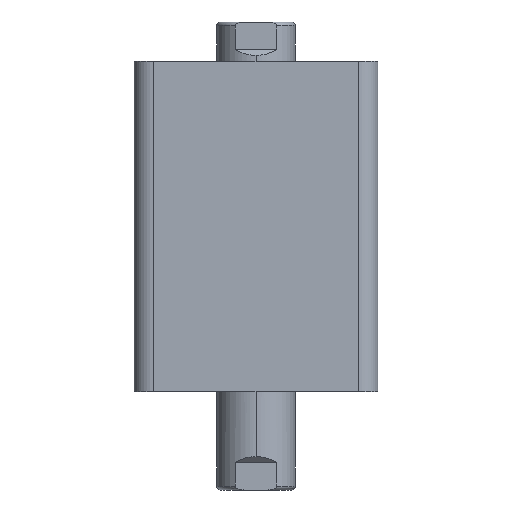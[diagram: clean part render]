
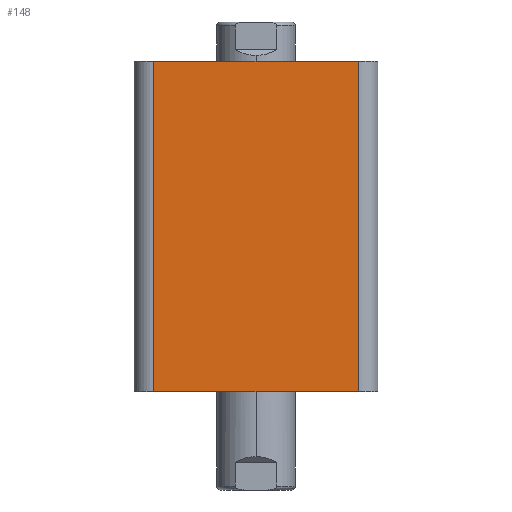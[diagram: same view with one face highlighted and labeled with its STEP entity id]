
A CAD part, left-side view. The second image highlights one B-rep face of the part: STEP entity #148.
In plain terms, the highlighted planar face has unit normal (-1, 0, 0).
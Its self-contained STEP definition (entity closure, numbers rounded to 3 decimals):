
#82 = DIRECTION ( 'NONE',  ( 0., 1., 0. ) ) ;
#84 = DIRECTION ( 'NONE',  ( 1., 0., 0. ) ) ;
#85 = PLANE ( 'NONE',  #2792 ) ;
#105 = CARTESIAN_POINT ( 'NONE',  ( -31., 31., 84. ) ) ;
#148 = ADVANCED_FACE ( 'NONE', ( #2646 ), #85, .F. ) ;
#226 = CARTESIAN_POINT ( 'NONE',  ( -31., -26., 0. ) ) ;
#232 = CARTESIAN_POINT ( 'NONE',  ( -31., 26., 84. ) ) ;
#262 = CARTESIAN_POINT ( 'NONE',  ( -31., 26., 0. ) ) ;
#285 = CARTESIAN_POINT ( 'NONE',  ( -31., -26., 84. ) ) ;
#396 = LINE ( 'NONE', #1488, #400 ) ;
#400 = VECTOR ( 'NONE', #1489, 1000. ) ;
#401 = LINE ( 'NONE', #1491, #405 ) ;
#402 = LINE ( 'NONE', #1477, #403 ) ;
#403 = VECTOR ( 'NONE', #1490, 1000. ) ;
#404 = LINE ( 'NONE', #1493, #407 ) ;
#405 = VECTOR ( 'NONE', #1492, 1000. ) ;
#407 = VECTOR ( 'NONE', #1494, 1000. ) ;
#1222 = EDGE_LOOP ( 'NONE', ( #3028, #3027, #3026, #3025 ) ) ;
#1477 = CARTESIAN_POINT ( 'NONE',  ( -31., -26., 84. ) ) ;
#1488 = CARTESIAN_POINT ( 'NONE',  ( -31., 31., 0. ) ) ;
#1489 = DIRECTION ( 'NONE',  ( 0., -1., 0. ) ) ;
#1490 = DIRECTION ( 'NONE',  ( 0., 0., 1. ) ) ;
#1491 = CARTESIAN_POINT ( 'NONE',  ( -31., 31., 84. ) ) ;
#1492 = DIRECTION ( 'NONE',  ( 0., -1., 0. ) ) ;
#1493 = CARTESIAN_POINT ( 'NONE',  ( -31., 26., 84. ) ) ;
#1494 = DIRECTION ( 'NONE',  ( 0., 0., -1. ) ) ;
#2373 = EDGE_CURVE ( 'NONE', #2982, #2946, #396, .T. ) ;
#2374 = EDGE_CURVE ( 'NONE', #2946, #3005, #402, .T. ) ;
#2375 = EDGE_CURVE ( 'NONE', #2952, #3005, #401, .T. ) ;
#2376 = EDGE_CURVE ( 'NONE', #2952, #2982, #404, .T. ) ;
#2646 = FACE_OUTER_BOUND ( 'NONE', #1222, .T. ) ;
#2792 = AXIS2_PLACEMENT_3D ( 'NONE', #105, #84, #82 ) ;
#2946 = VERTEX_POINT ( 'NONE', #226 ) ;
#2952 = VERTEX_POINT ( 'NONE', #232 ) ;
#2982 = VERTEX_POINT ( 'NONE', #262 ) ;
#3005 = VERTEX_POINT ( 'NONE', #285 ) ;
#3025 = ORIENTED_EDGE ( 'NONE', *, *, #2376, .T. ) ;
#3026 = ORIENTED_EDGE ( 'NONE', *, *, #2375, .F. ) ;
#3027 = ORIENTED_EDGE ( 'NONE', *, *, #2374, .T. ) ;
#3028 = ORIENTED_EDGE ( 'NONE', *, *, #2373, .T. ) ;
